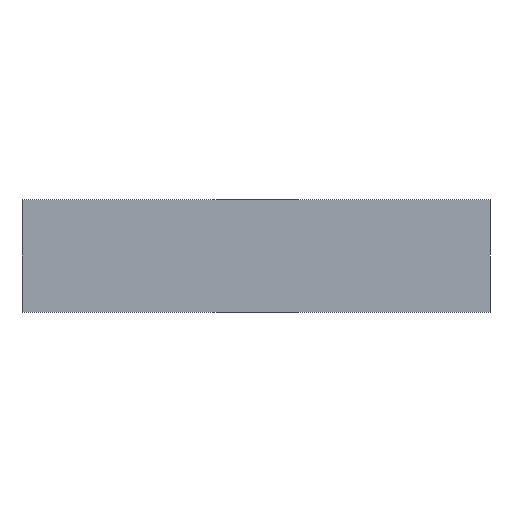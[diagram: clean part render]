
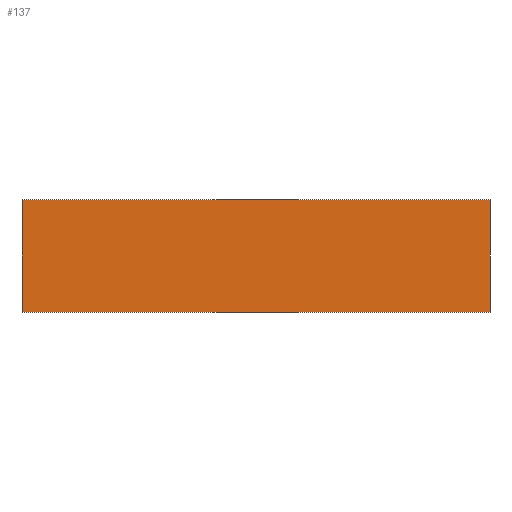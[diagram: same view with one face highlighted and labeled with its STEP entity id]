
A CAD part, front view. The second image highlights one B-rep face of the part: STEP entity #137.
In plain terms, the highlighted planar face has unit normal (0, -1, 0).
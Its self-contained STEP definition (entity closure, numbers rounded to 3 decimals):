
#21 = EDGE_CURVE('',#22,#24,#26,.T.);
#22 = VERTEX_POINT('',#23);
#23 = CARTESIAN_POINT('',(0.,0.,0.));
#24 = VERTEX_POINT('',#25);
#25 = CARTESIAN_POINT('',(0.,0.,6.));
#26 = SURFACE_CURVE('',#27,(#31,#43),.PCURVE_S1.);
#27 = LINE('',#28,#29);
#28 = CARTESIAN_POINT('',(0.,0.,0.));
#29 = VECTOR('',#30,1.);
#30 = DIRECTION('',(0.,0.,1.));
#31 = PCURVE('',#32,#37);
#32 = PLANE('',#33);
#33 = AXIS2_PLACEMENT_3D('',#34,#35,#36);
#34 = CARTESIAN_POINT('',(0.,0.,0.));
#35 = DIRECTION('',(1.,0.,0.));
#36 = DIRECTION('',(0.,0.,1.));
#37 = DEFINITIONAL_REPRESENTATION('',(#38),#42);
#38 = LINE('',#39,#40);
#39 = CARTESIAN_POINT('',(0.,0.));
#40 = VECTOR('',#41,1.);
#41 = DIRECTION('',(1.,0.));
#42 = ( GEOMETRIC_REPRESENTATION_CONTEXT(2) 
PARAMETRIC_REPRESENTATION_CONTEXT() REPRESENTATION_CONTEXT('2D SPACE',''
  ) );
#43 = PCURVE('',#44,#49);
#44 = PLANE('',#45);
#45 = AXIS2_PLACEMENT_3D('',#46,#47,#48);
#46 = CARTESIAN_POINT('',(0.,0.,0.));
#47 = DIRECTION('',(0.,1.,0.));
#48 = DIRECTION('',(0.,0.,1.));
#49 = DEFINITIONAL_REPRESENTATION('',(#50),#54);
#50 = LINE('',#51,#52);
#51 = CARTESIAN_POINT('',(0.,0.));
#52 = VECTOR('',#53,1.);
#53 = DIRECTION('',(1.,0.));
#54 = ( GEOMETRIC_REPRESENTATION_CONTEXT(2) 
PARAMETRIC_REPRESENTATION_CONTEXT() REPRESENTATION_CONTEXT('2D SPACE',''
  ) );
#72 = PLANE('',#73);
#73 = AXIS2_PLACEMENT_3D('',#74,#75,#76);
#74 = CARTESIAN_POINT('',(0.,0.,0.));
#75 = DIRECTION('',(0.,0.,1.));
#76 = DIRECTION('',(1.,0.,0.));
#126 = PLANE('',#127);
#127 = AXIS2_PLACEMENT_3D('',#128,#129,#130);
#128 = CARTESIAN_POINT('',(0.,0.,6.));
#129 = DIRECTION('',(0.,0.,1.));
#130 = DIRECTION('',(1.,0.,0.));
#137 = ADVANCED_FACE('',(#138),#44,.F.);
#138 = FACE_BOUND('',#139,.F.);
#139 = EDGE_LOOP('',(#140,#163,#164,#187));
#140 = ORIENTED_EDGE('',*,*,#141,.F.);
#141 = EDGE_CURVE('',#22,#142,#144,.T.);
#142 = VERTEX_POINT('',#143);
#143 = CARTESIAN_POINT('',(25.,0.,0.));
#144 = SURFACE_CURVE('',#145,(#149,#156),.PCURVE_S1.);
#145 = LINE('',#146,#147);
#146 = CARTESIAN_POINT('',(0.,0.,0.));
#147 = VECTOR('',#148,1.);
#148 = DIRECTION('',(1.,0.,0.));
#149 = PCURVE('',#44,#150);
#150 = DEFINITIONAL_REPRESENTATION('',(#151),#155);
#151 = LINE('',#152,#153);
#152 = CARTESIAN_POINT('',(0.,0.));
#153 = VECTOR('',#154,1.);
#154 = DIRECTION('',(0.,1.));
#155 = ( GEOMETRIC_REPRESENTATION_CONTEXT(2) 
PARAMETRIC_REPRESENTATION_CONTEXT() REPRESENTATION_CONTEXT('2D SPACE',''
  ) );
#156 = PCURVE('',#72,#157);
#157 = DEFINITIONAL_REPRESENTATION('',(#158),#162);
#158 = LINE('',#159,#160);
#159 = CARTESIAN_POINT('',(0.,0.));
#160 = VECTOR('',#161,1.);
#161 = DIRECTION('',(1.,0.));
#162 = ( GEOMETRIC_REPRESENTATION_CONTEXT(2) 
PARAMETRIC_REPRESENTATION_CONTEXT() REPRESENTATION_CONTEXT('2D SPACE',''
  ) );
#163 = ORIENTED_EDGE('',*,*,#21,.T.);
#164 = ORIENTED_EDGE('',*,*,#165,.T.);
#165 = EDGE_CURVE('',#24,#166,#168,.T.);
#166 = VERTEX_POINT('',#167);
#167 = CARTESIAN_POINT('',(25.,0.,6.));
#168 = SURFACE_CURVE('',#169,(#173,#180),.PCURVE_S1.);
#169 = LINE('',#170,#171);
#170 = CARTESIAN_POINT('',(0.,0.,6.));
#171 = VECTOR('',#172,1.);
#172 = DIRECTION('',(1.,0.,0.));
#173 = PCURVE('',#44,#174);
#174 = DEFINITIONAL_REPRESENTATION('',(#175),#179);
#175 = LINE('',#176,#177);
#176 = CARTESIAN_POINT('',(6.,0.));
#177 = VECTOR('',#178,1.);
#178 = DIRECTION('',(0.,1.));
#179 = ( GEOMETRIC_REPRESENTATION_CONTEXT(2) 
PARAMETRIC_REPRESENTATION_CONTEXT() REPRESENTATION_CONTEXT('2D SPACE',''
  ) );
#180 = PCURVE('',#126,#181);
#181 = DEFINITIONAL_REPRESENTATION('',(#182),#186);
#182 = LINE('',#183,#184);
#183 = CARTESIAN_POINT('',(0.,0.));
#184 = VECTOR('',#185,1.);
#185 = DIRECTION('',(1.,0.));
#186 = ( GEOMETRIC_REPRESENTATION_CONTEXT(2) 
PARAMETRIC_REPRESENTATION_CONTEXT() REPRESENTATION_CONTEXT('2D SPACE',''
  ) );
#187 = ORIENTED_EDGE('',*,*,#188,.F.);
#188 = EDGE_CURVE('',#142,#166,#189,.T.);
#189 = SURFACE_CURVE('',#190,(#194,#201),.PCURVE_S1.);
#190 = LINE('',#191,#192);
#191 = CARTESIAN_POINT('',(25.,0.,0.));
#192 = VECTOR('',#193,1.);
#193 = DIRECTION('',(0.,0.,1.));
#194 = PCURVE('',#44,#195);
#195 = DEFINITIONAL_REPRESENTATION('',(#196),#200);
#196 = LINE('',#197,#198);
#197 = CARTESIAN_POINT('',(0.,25.));
#198 = VECTOR('',#199,1.);
#199 = DIRECTION('',(1.,0.));
#200 = ( GEOMETRIC_REPRESENTATION_CONTEXT(2) 
PARAMETRIC_REPRESENTATION_CONTEXT() REPRESENTATION_CONTEXT('2D SPACE',''
  ) );
#201 = PCURVE('',#202,#207);
#202 = PLANE('',#203);
#203 = AXIS2_PLACEMENT_3D('',#204,#205,#206);
#204 = CARTESIAN_POINT('',(25.,0.,0.));
#205 = DIRECTION('',(1.,0.,0.));
#206 = DIRECTION('',(0.,0.,1.));
#207 = DEFINITIONAL_REPRESENTATION('',(#208),#212);
#208 = LINE('',#209,#210);
#209 = CARTESIAN_POINT('',(0.,0.));
#210 = VECTOR('',#211,1.);
#211 = DIRECTION('',(1.,0.));
#212 = ( GEOMETRIC_REPRESENTATION_CONTEXT(2) 
PARAMETRIC_REPRESENTATION_CONTEXT() REPRESENTATION_CONTEXT('2D SPACE',''
  ) );
